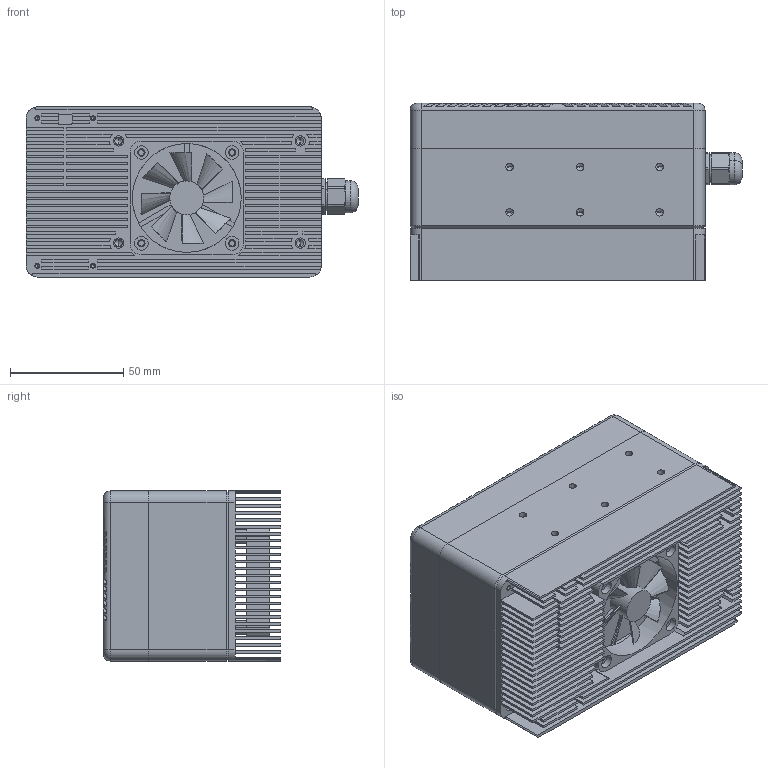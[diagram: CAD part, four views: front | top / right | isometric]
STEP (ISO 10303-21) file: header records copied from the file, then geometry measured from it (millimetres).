
FILE_DESCRIPTION (( 'STEP AP214' ), '1' );
FILE_NAME ('DM-X装配体-渲染用-20240910.STEP', '2024-09-10T09:43:48', ( '' ), ( '' ), 'SwSTEP 2.0', 'SolidWorks 2020', '' );
FILE_SCHEMA (( 'AUTOMOTIVE_DESIGN' ));
Length unit declared in the file: millimetre
Products named in the file (20): M10×1.5_PG11不带闭母; USB猾蚾耀倰; DM-X ヶ遺; DM慾嫖ん敦諳え; DM-X-RX啣郪璃; DM-X綴遺郪璃; AUTOSAVE; DM-X装配体-渲染用-20240910; DM-X外接散热器; DM-X絳嫖翐; DC-AR0234-100MM-2358V1; DM-X綴遺; 瑞圮50x50mm; DM-X-ヶ遺郪璃; TX PCB摄像头橡胶圈-单独实体; DM-X TOF敦諳え; RGB耀郪; DM-X-RGB敦諳え; RGB耀郪PCB華啣; 240716-adl-n97-A(710)
Assembly tree (21 placements, depth 3):
  DM-X装配体-渲染用-20240910
    DM-X-ヶ遺郪璃
      DM-X ヶ遺
      DM-X絳嫖翐
      DM慾嫖ん敦諳え  x2
      DM-X TOF敦諳え
      DM-X-RGB敦諳え
    240716-adl-n97-A(710)
    DM-X綴遺郪璃
      DM-X綴遺
    DM-X-RX啣郪璃
      USB猾蚾耀倰  x2
    RGB耀郪
      RGB耀郪PCB華啣
      DC-AR0234-100MM-2358V1
    AUTOSAVE
    TX PCB摄像头橡胶圈-单独实体
    M10×1.5_PG11不带闭母
    DM-X外接散热器
    瑞圮50x50mm
Bounding box: 146.3 x 78 x 75 mm (x, y, z)
Volume: 269753 mm3; surface area: 251033.7 mm2
Topology: 66 solids, 66 shells, 4751 faces, 12715 edges, 8254 vertices
Faces by surface type: plane 3260, cylinder 1192, bspline 152, cone 141, torus 6
Entity records: 174857 total; most frequent: CARTESIAN_POINT 30472, ORIENTED_EDGE 24234, DIRECTION 22437, EDGE_CURVE 12117, LINE 9377, VECTOR 9377, VERTEX_POINT 7926, AXIS2_PLACEMENT_3D 6530
